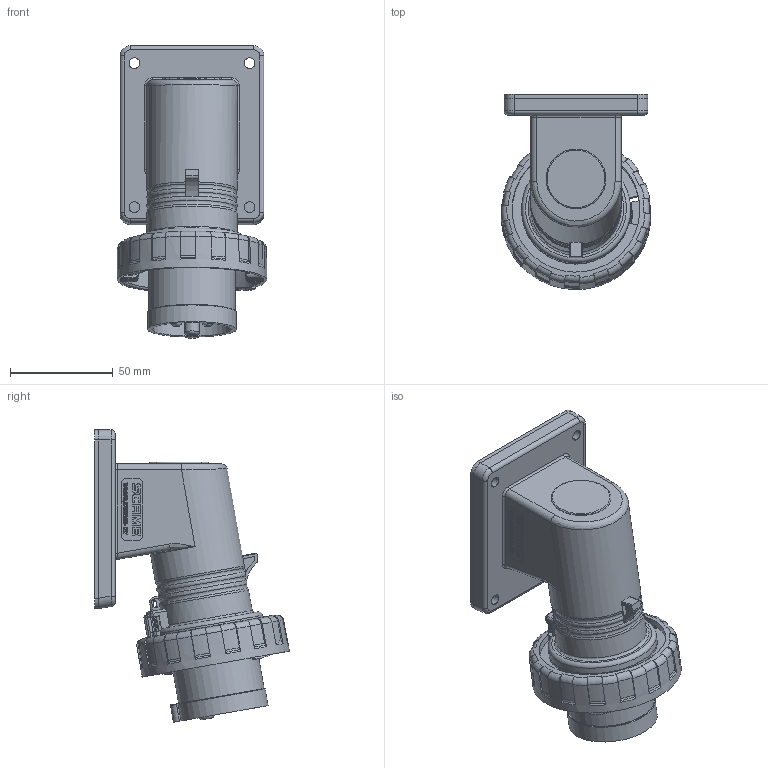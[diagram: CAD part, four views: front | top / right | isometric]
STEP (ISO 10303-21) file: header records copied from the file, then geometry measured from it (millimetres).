
FILE_DESCRIPTION(/* description */ (''),/* implementation_level */ '2;1');
FILE_NAME(/* name */ '4006462.stp',/* time_stamp */ '2020-01-23T08:03:46+01:00',/* author */ (''),/* organization */ (''),/* preprocessor_version */ 'ST-DEVELOPER v16.7',/* originating_system */ 'SIEMENS PLM Software NX 1892',/* authorisation */ '');
FILE_SCHEMA (('AUTOMOTIVE_DESIGN { 1 0 10303 214 3 1 1 1 }'));
Length unit declared in the file: millimetre
Products named in the file (1): BSOM8D7826D6jt6v
Bounding box: 72.71 x 94.75 x 142.25 mm (x, y, z)
Volume: 102984.1 mm3; surface area: 97563 mm2
Topology: 9 solids, 9 shells, 1487 faces, 3978 edges, 2595 vertices
Faces by surface type: plane 725, cylinder 411, extrusion 128, torus 113, bspline 52, cone 49, sphere 9
Full cylindrical faces by diameter (mm): 1.8 x2, 2 x1, 2.4 x1, 2.8 x3, 3.6 x2, 3.7 x1, 5 x2, 5.3 x2, 5.6 x4, 7 x3, 7.3 x3, 8 x1, 8.3 x1, 10 x2, 11 x1, 22 x1, 23.9 x1, 29 x1, 35 x1, 38.3 x1, 42.1 x1, 42.2 x1, 44 x1, 47.6 x1, 53 x1, 62.1 x1
Entity records: 51243 total; most frequent: CARTESIAN_POINT 13872, ORIENTED_EDGE 7700, DIRECTION 7242, EDGE_CURVE 3850, VERTEX_POINT 2553, AXIS2_PLACEMENT_3D 2491, VECTOR 2260, LINE 2132
